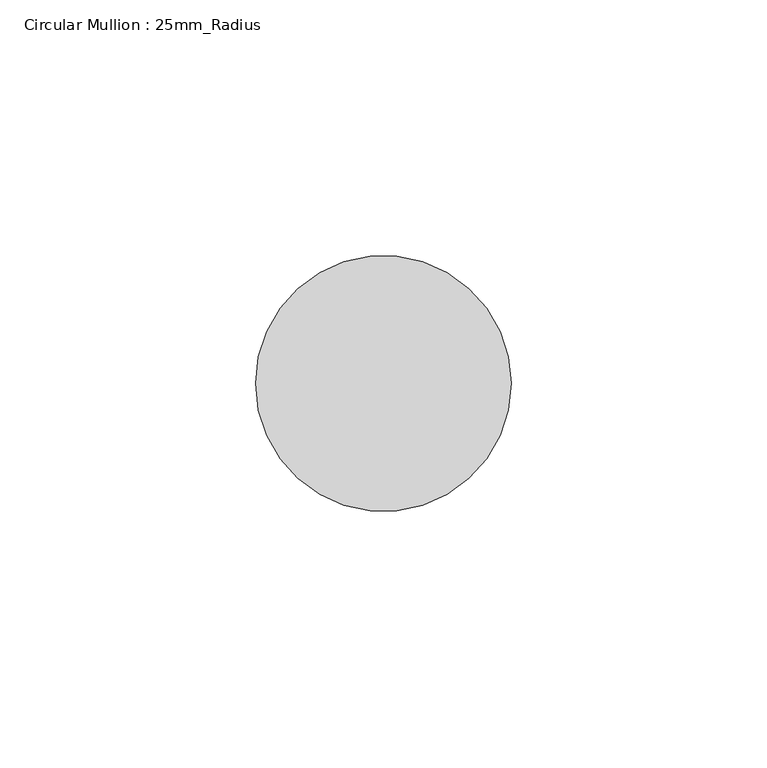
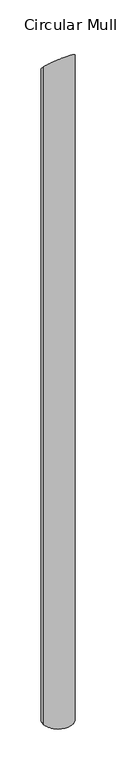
"""IFC4 building model written with IfcOpenShell, lengths in millimetres: member geometry, Circular Mullion : 25mm_Radius."""

import ifcopenshell
import ifcopenshell.guid

model = None  # the IFC model being written
_history = None  # IfcOwnerHistory: only IFC2X3 demands one
_inside = {}  # id of a spatial element -> (the spatial element, [elements in it])
_under = {}  # id of a project, library or spatial element -> (it, [spatial elements below it])
_declared = {}  # id of a project -> (the project, [libraries it declares])
_typed = {}  # id of a type object -> (the type object, [elements of that type])
_made_of = {}  # id of a material, layer set ... -> (it, [elements and type objects made of it])


def new_model(schema):
    """Start an empty IFC model of exactly this schema.

    Asked for "IFC4X3", IfcOpenShell would pick the latest addendum, in which some entities
    have other attributes; the version numbers below select the first issue.
    IFC2X3 requires an IfcOwnerHistory on every rooted entity: one is made here for all.
    """
    global model, _history
    if schema == "IFC4X3":
        model = ifcopenshell.file(schema_version=(4, 3, 0, 0))
    else:
        model = ifcopenshell.file(schema=schema)
    _inside.clear()
    _under.clear()
    _declared.clear()
    _typed.clear()
    _made_of.clear()
    _history = None
    if model.schema == "IFC2X3":
        org = make("IfcOrganization", Name="unknown")
        user = make(
            "IfcPersonAndOrganization",
            ThePerson=make("IfcPerson", FamilyName="unknown"),
            TheOrganization=org,
        )
        app = make(
            "IfcApplication",
            ApplicationDeveloper=org,
            Version="unknown",
            ApplicationFullName="unknown",
            ApplicationIdentifier="unknown",
        )
        _history = make(
            "IfcOwnerHistory",
            OwningUser=user,
            OwningApplication=app,
            ChangeAction="ADDED",
            CreationDate=0,
        )
    return model


def make(cls, **values):
    """One entity of the class cls with the attributes given. An attribute that is None is left unset."""
    return model.create_entity(
        cls, **{name: value for name, value in values.items() if value is not None}
    )


def rooted(cls, **values):
    """An entity with a GlobalId (a new one), such as an element, a storey or a relation."""
    return make(cls, GlobalId=ifcopenshell.guid.new(), OwnerHistory=_history, **values)


def si_unit(unit_type, name, prefix=None):
    """IfcSIUnit, for example si_unit("LENGTHUNIT", "METRE", prefix="MILLI")."""
    return make("IfcSIUnit", UnitType=unit_type, Prefix=prefix, Name=name)


def assignment(units):
    """IfcUnitAssignment: the units of a project."""
    return None if units is None else make("IfcUnitAssignment", Units=units)


def point(xyz):
    """IfcCartesianPoint."""
    return None if xyz is None else make("IfcCartesianPoint", Coordinates=xyz)


def direction(xyz):
    """IfcDirection."""
    return None if xyz is None else make("IfcDirection", DirectionRatios=xyz)


def frame(location, z_axis=None, x_axis=None):
    """IfcAxis2Placement3D, a coordinate frame: its origin and axes. An axis left out is left unset."""
    return make(
        "IfcAxis2Placement3D",
        Location=point(location),
        Axis=direction(z_axis),
        RefDirection=direction(x_axis),
    )


def origin():
    """The frame at (0, 0, 0) with its axes left unset."""
    return frame((0.0, 0.0, 0.0))


def place(relative_to, where):
    """IfcLocalPlacement: puts the frame where relative to a parent placement (None: the world)."""
    return make(
        "IfcLocalPlacement", PlacementRelTo=relative_to, RelativePlacement=where
    )


def context(
    kind, dimensions, precision=None, world=None, true_north=None, identifier=None
):
    """IfcGeometricRepresentationContext, for example the 3D "Model" context."""
    return make(
        "IfcGeometricRepresentationContext",
        ContextIdentifier=identifier,
        ContextType=kind,
        CoordinateSpaceDimension=dimensions,
        Precision=precision,
        WorldCoordinateSystem=world,
        TrueNorth=true_north,
    )


def project(units=None, contexts=None):
    """IfcProject with its units and contexts."""
    return rooted(
        "IfcProject",
        Name="project",
        RepresentationContexts=contexts,
        UnitsInContext=assignment(units),
    )


def spatial(cls, under=None, at=None, **own):
    """A site, building, storey or space (cls), placed at a placement, below another one or the project."""
    s = rooted(cls, ObjectPlacement=at, **own)
    if under is not None:
        _under.setdefault(under.id(), (under, []))[1].append(s)
    return s


def circle_curve(where, radius):
    """IfcCircle in the frame where."""
    return make("IfcCircle", Position=where, Radius=radius)


def ellipse_curve(where, semi_axis1, semi_axis2):
    """IfcEllipse in the frame where."""
    return make(
        "IfcEllipse", Position=where, SemiAxis1=semi_axis1, SemiAxis2=semi_axis2
    )


def shape(context_of_items, identifier, shape_type, items):
    """IfcShapeRepresentation: the items that make up one representation, for example the "Body"."""
    return make(
        "IfcShapeRepresentation",
        ContextOfItems=context_of_items,
        RepresentationIdentifier=identifier,
        RepresentationType=shape_type,
        Items=items,
    )


def source(mapping_origin, context_of_items, identifier, shape_type, items):
    """IfcRepresentationMap: a shape defined once, which mapped items show again and again."""
    return make(
        "IfcRepresentationMap",
        MappingOrigin=mapping_origin,
        MappedRepresentation=shape(context_of_items, identifier, shape_type, items),
    )


def transform(
    local_origin,
    x_axis=None,
    y_axis=None,
    z_axis=None,
    scale=None,
    scale2=None,
    scale3=None,
    uniform=True,
):
    """IfcCartesianTransformationOperator3D, or its non-uniform kind. x_axis, y_axis, z_axis: its Axis1, 2, 3."""
    if uniform:
        return make(
            "IfcCartesianTransformationOperator3D",
            Axis1=direction(x_axis),
            Axis2=direction(y_axis),
            LocalOrigin=point(local_origin),
            Scale=scale,
            Axis3=direction(z_axis),
        )
    return make(
        "IfcCartesianTransformationOperator3DnonUniform",
        Axis1=direction(x_axis),
        Axis2=direction(y_axis),
        LocalOrigin=point(local_origin),
        Scale=scale,
        Axis3=direction(z_axis),
        Scale2=scale2,
        Scale3=scale3,
    )


def mapped(mapping_source, mapping_target):
    """IfcMappedItem: shows the shape of a source again, moved by a transform."""
    return make(
        "IfcMappedItem", MappingSource=mapping_source, MappingTarget=mapping_target
    )


def made_of(thing, what):
    """Note that an element or type object is made of a material, layer set ...; save() writes the relation."""
    if what is not None:
        _made_of.setdefault(what.id(), (what, []))[1].append(thing)
    return thing


def element(
    cls,
    number,
    at=None,
    inside=None,
    cuts=None,
    type_object=None,
    material=None,
    context=None,
    identifier="Body",
    shape_type=None,
    held_by="IfcProductDefinitionShape",
    body=None,
    shapes=None,
    **own,
):
    """One element of the class cls, such as IfcWall. Its Tag is "e" and its number.

    at: its placement. inside: the storey or other place that contains it. cuts: it is an
    opening in that element (IfcRelVoidsElement). A single representation is given by context,
    identifier, shape_type and body (its items); several are given by shapes. held_by: the class
    of the entity that holds the representations. save() writes the other relations.
    """
    e = rooted(cls, Tag="e%d" % number, ObjectPlacement=at, **own)
    if body is not None:
        shapes = [shape(context, identifier, shape_type, body)]
    if shapes is not None:
        e.Representation = make(held_by, Representations=shapes)
    if inside is not None:
        _inside.setdefault(inside.id(), (inside, []))[1].append(e)
    if cuts is not None:
        rooted(
            "IfcRelVoidsElement", RelatingBuildingElement=cuts, RelatedOpeningElement=e
        )
    if type_object is not None:
        _typed.setdefault(type_object.id(), (type_object, []))[1].append(e)
    return made_of(e, material)


def aggregate(whole, parts):
    """IfcRelAggregates: a whole, such as a stair, and the parts it consists of."""
    return rooted("IfcRelAggregates", RelatingObject=whole, RelatedObjects=parts)


def save(model, path):
    """Write the relations noted so far, then the file.

    IfcRelAggregates (storeys below a building ...), IfcRelContainedInSpatialStructure (elements
    in a storey), IfcRelDefinesByType, IfcRelAssociatesMaterial and IfcRelDeclares: one each for
    every whole, place, type object, material and project.
    """
    for whole, parts in _under.values():
        aggregate(whole, parts)
    for where, things in _inside.values():
        rooted(
            "IfcRelContainedInSpatialStructure",
            RelatedElements=things,
            RelatingStructure=where,
        )
    for kind, things in _typed.values():
        rooted("IfcRelDefinesByType", RelatedObjects=things, RelatingType=kind)
    for what, things in _made_of.values():
        rooted("IfcRelAssociatesMaterial", RelatedObjects=things, RelatingMaterial=what)
    for by, libraries in _declared.values():
        rooted("IfcRelDeclares", RelatingContext=by, RelatedDefinitions=libraries)
    model.write(path)


def plane_surface(at):
    """IfcPlane: the flat surface through the origin of the frame at, square to its z axis."""
    return make("IfcPlane", Position=at)


def cylinder_surface(at, radius):
    """IfcCylindricalSurface: all points at the distance radius from the z axis of the frame at."""
    return make("IfcCylindricalSurface", Position=at, Radius=radius)


def advanced_brep(points, edges, surfaces, faces):
    """IfcAdvancedBrep: a solid bounded by faces that lie on surfaces and meet in shared edges.

    An edge is (start, end): straight between two places in points (the first is 0);
    or (start, end, curve); or (start, end, curve, False) where it runs against its curve.
    A face is (place in surfaces, loops), or (place, loops, False) where it looks against
    its surface's normal. A loop lists edges by number (the first is 1), with a minus sign
    where the edge is run from its end to its start. The first loop is the outer one.
    """
    corners = [point(p) for p in points]
    vertices = [make("IfcVertexPoint", VertexGeometry=c) for c in corners]
    made = []
    for start, end, *more in edges:
        made.append(
            make(
                "IfcEdgeCurve",
                EdgeStart=vertices[start],
                EdgeEnd=vertices[end],
                EdgeGeometry=more[0] if more else make("IfcPolyline", Points=[corners[start], corners[end]]),
                SameSense=more[1] if len(more) > 1 else True,
            )
        )
    hull = []
    for where, loops, *sense in faces:
        bounds = []
        for j, loop in enumerate(loops):
            ring = [make("IfcOrientedEdge", EdgeElement=made[abs(k) - 1], Orientation=k > 0) for k in loop]
            bounds.append(
                make(
                    "IfcFaceOuterBound" if j == 0 else "IfcFaceBound",
                    Bound=make("IfcEdgeLoop", EdgeList=ring),
                    Orientation=True,
                )
            )
        hull.append(make("IfcAdvancedFace", Bounds=bounds, FaceSurface=surfaces[where], SameSense=sense[0] if sense else True))
    return make("IfcAdvancedBrep", Outer=make("IfcClosedShell", CfsFaces=hull))


def circular_mullion_25mm_radius_dac5c239(model_context):
    return source(origin(), model_context, "Body", "AdvancedBrep", [
        advanced_brep(
        [(0.0, 0.0, -1176.2050127), (-50.0, 0.0, -1176.2050127), (-50.0, 0.0, 0.0), (0.0, 0.0, 0.0)],
        [
            (0, 1, circle_curve(frame((-25.0, 0.0, -1176.2050127), z_axis=(0.0, 0.0, -1.0), x_axis=(1.0, 0.0, 0.0)), 25.0)),
            (1, 0, circle_curve(frame((-25.0, 0.0, -1176.2050127), z_axis=(0.0, 0.0, -1.0), x_axis=(1.0, 0.0, 0.0)), 25.0)),
            (2, 3, ellipse_curve(frame((-25.0, 0.0, 0.0), z_axis=(0.0, -0.7071067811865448, -0.7071067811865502), x_axis=(0.0, -0.7071067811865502, 0.7071067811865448)), 35.3553391, 25.0)),
            (3, 0),
            (1, 2),
            (3, 2, ellipse_curve(frame((-25.0, 0.0, 0.0), z_axis=(0.0, -0.7071067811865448, -0.7071067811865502), x_axis=(0.0, -0.7071067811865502, 0.7071067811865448)), 35.3553391, 25.0)),
        ],
        [
            plane_surface(frame((0.0, -50.0, -1176.2050127), z_axis=(0.0, 0.0, -1.0), x_axis=(-1.0, 0.0, 0.0))),
            cylinder_surface(frame((-25.0, 0.0, 0.0), z_axis=(0.0, 0.0, 1.0), x_axis=(1.0, 0.0, 0.0)), 25.0),
            plane_surface(frame((-304.8, 0.0, 0.0), z_axis=(0.0, 0.7071067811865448, 0.7071067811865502), x_axis=(0.0, 0.7071067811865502, -0.7071067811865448))),
        ],
        [
            (0, [[1, 2]]),
            (1, [[3, 4, -2, 5]]),
            (1, [[6, -5, -1, -4]]),
            (2, [[-3, -6]]),
        ],
    ),
    ])


if __name__ == "__main__":
    model = new_model("IFC4")
    model_context = context("Model", 3, world=origin())
    ifc_project = project(units=[si_unit("LENGTHUNIT", "METRE", prefix="MILLI")], contexts=[model_context])
    site = spatial("IfcSite", under=ifc_project)
    building = spatial("IfcBuilding", under=site)
    placement = place(None, origin())
    circular_mullion_25mm_radius_shape = circular_mullion_25mm_radius_dac5c239(model_context)
    element("IfcMember", 1, ObjectType="Circular Mullion : 25mm_Radius", at=placement, inside=building, context=model_context, shape_type="MappedRepresentation", body=[
        mapped(circular_mullion_25mm_radius_shape, transform((0.0, 0.0, 0.0), x_axis=(1.0, 0.0, 0.0), y_axis=(0.0, 1.0, 0.0), z_axis=(0.0, 0.0, 1.0))),
    ])
    save(model, "model.ifc")
